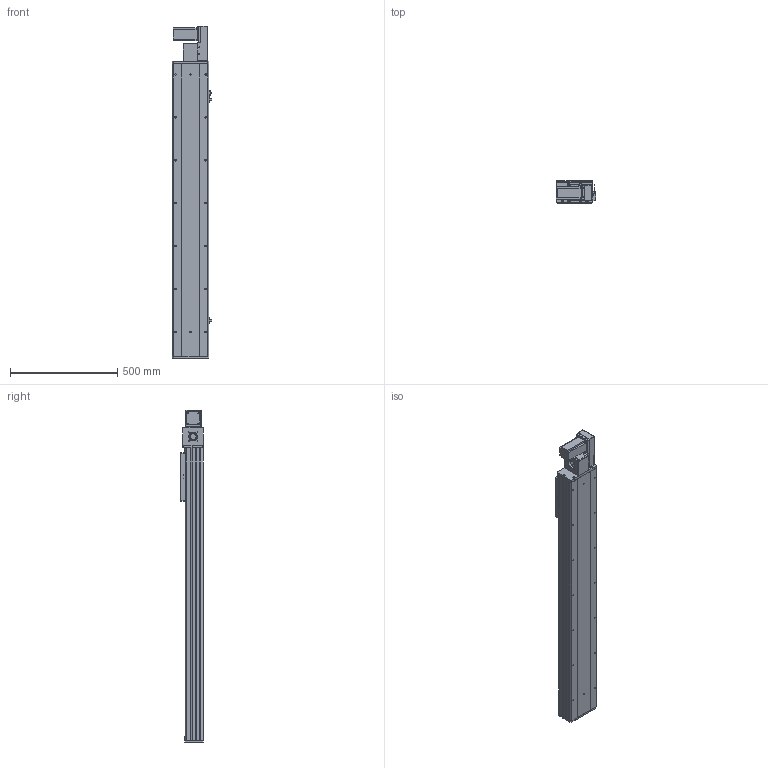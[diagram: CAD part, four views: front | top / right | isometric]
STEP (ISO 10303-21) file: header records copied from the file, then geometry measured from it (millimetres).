
FILE_DESCRIPTION (( 'STEP AP203' ), '1' );
FILE_NAME ('Y170CB-D105-S1050-BR-P400W.STEP', '2020-02-19T09:10:13', ( '微软用户' ), ( '微软中国' ), 'SwSTEP 2.0', 'SolidWorks 2017', '' );
FILE_SCHEMA (( 'CONFIG_CONTROL_DESIGN' ));
Length unit declared in the file: millimetre
Products named in the file (17): san松下电机400不带刹车----; Y70俋欶BR----; 70CB-掛极-; --70CB --喘謫眊楊擘啣-; 70CB-耜裔啣-; 70C--詩湍揤踡え-; 70CB--耜裔; 70C-雄赽釱-奻-; 0C--雄赽釱俋欶-170; 70CB-詩湍--; Y100-135俋离換覜ん--; Y170CB-陔俋离換覜結え---; Y170CB-D105-S1050-BR-P400W; 17B-耜蚾蟀諉啣----; 0B-萇儂楊擘啣; B-源倛裔啣; 70B喘謫眊----
Assembly tree (20 placements, depth 2):
  Y170CB-D105-S1050-BR-P400W
    70B喘謫眊----
    B-源倛裔啣
    17B-耜蚾蟀諉啣----
    0B-萇儂楊擘啣
    san松下电机400不带刹车----
    Y70俋欶BR----
    70CB-掛极-
    --70CB --喘謫眊楊擘啣-
    70CB-耜裔啣-  x2
    70C--詩湍揤踡え-  x2
    70CB--耜裔
    70C-雄赽釱-奻-
    0C--雄赽釱俋欶-170
    70CB-詩湍--
    Y100-135俋离換覜ん--  x3
    Y170CB-陔俋离換覜結え---
Bounding box: 183.5 x 107 x 1547 mm (x, y, z)
Volume: 6729589.2 mm3; surface area: 2405255.3 mm2
Topology: 20 solids, 20 shells, 993 faces, 2657 edges, 1762 vertices
Faces by surface type: cylinder 507, plane 462, cone 24
Entity records: 31459 total; most frequent: CARTESIAN_POINT 5781, DIRECTION 5116, ORIENTED_EDGE 4796, EDGE_CURVE 2398, AXIS2_PLACEMENT_3D 1865, VERTEX_POINT 1592, LINE 1386, VECTOR 1386
